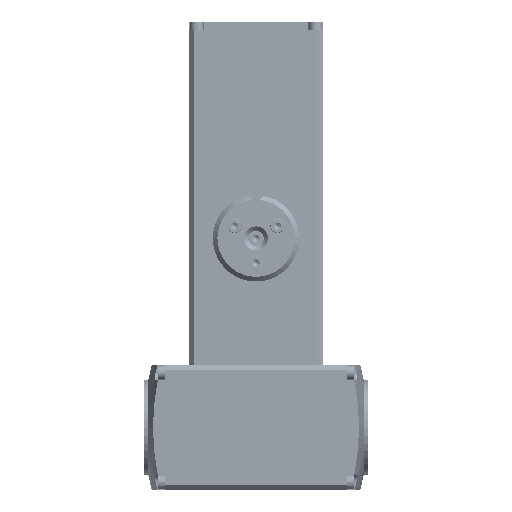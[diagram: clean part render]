
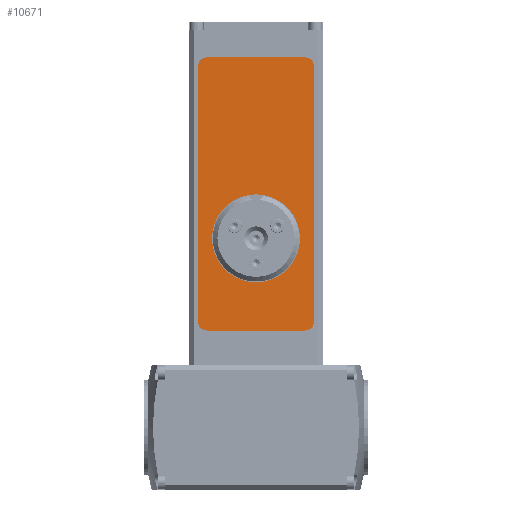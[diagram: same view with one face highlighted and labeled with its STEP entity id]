
A CAD part, front view. The second image highlights one B-rep face of the part: STEP entity #10671.
In plain terms, the highlighted planar face has unit normal (0, -1, 0).
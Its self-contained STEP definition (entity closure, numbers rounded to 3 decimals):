
#4018=FACE_BOUND('',#35643,.F.);
#10671=ADVANCED_FACE('',(#4018,#22852),#110357,.T.);
#22852=FACE_OUTER_BOUND('',#35644,.F.);
#35643=EDGE_LOOP('',(#68714,#68715));
#35644=EDGE_LOOP('',(#68716,#68717,#68718,#68719,#68720,#68721,#68722,#68723));
#68714=ORIENTED_EDGE('',*,*,#181576,.T.);
#68715=ORIENTED_EDGE('',*,*,#181574,.T.);
#68716=ORIENTED_EDGE('',*,*,#181578,.F.);
#68717=ORIENTED_EDGE('',*,*,#181585,.T.);
#68718=ORIENTED_EDGE('',*,*,#181584,.F.);
#68719=ORIENTED_EDGE('',*,*,#181583,.T.);
#68720=ORIENTED_EDGE('',*,*,#181582,.F.);
#68721=ORIENTED_EDGE('',*,*,#181581,.T.);
#68722=ORIENTED_EDGE('',*,*,#181580,.F.);
#68723=ORIENTED_EDGE('',*,*,#181579,.T.);
#110357=PLANE('',#236156);
#125511=LINE('',#337910,#151169);
#125512=LINE('',#337912,#151170);
#125513=LINE('',#337914,#151171);
#125514=LINE('',#337916,#151172);
#151169=VECTOR('',#271066,83.);
#151170=VECTOR('',#271069,32.);
#151171=VECTOR('',#271072,83.);
#151172=VECTOR('',#271075,32.);
#181574=EDGE_CURVE('',#214617,#214616,#204846,.T.);
#181576=EDGE_CURVE('',#214616,#214617,#204848,.T.);
#181578=EDGE_CURVE('',#214613,#214612,#204850,.T.);
#181579=EDGE_CURVE('',#214611,#214612,#125511,.T.);
#181580=EDGE_CURVE('',#214611,#214610,#204851,.T.);
#181581=EDGE_CURVE('',#214609,#214610,#125512,.T.);
#181582=EDGE_CURVE('',#214609,#214608,#204852,.T.);
#181583=EDGE_CURVE('',#214607,#214608,#125513,.T.);
#181584=EDGE_CURVE('',#214607,#214606,#204853,.T.);
#181585=EDGE_CURVE('',#214613,#214606,#125514,.T.);
#204846=CIRCLE('',#236144,14.25);
#204848=CIRCLE('',#236146,14.25);
#204850=CIRCLE('',#236148,2.75);
#204851=CIRCLE('',#236149,2.75);
#204852=CIRCLE('',#236150,2.75);
#204853=CIRCLE('',#236151,2.75);
#214606=VERTEX_POINT('',#337893);
#214607=VERTEX_POINT('',#337894);
#214608=VERTEX_POINT('',#337895);
#214609=VERTEX_POINT('',#337896);
#214610=VERTEX_POINT('',#337897);
#214611=VERTEX_POINT('',#337898);
#214612=VERTEX_POINT('',#337899);
#214613=VERTEX_POINT('',#337900);
#214616=VERTEX_POINT('',#337903);
#214617=VERTEX_POINT('',#337904);
#236144=AXIS2_PLACEMENT_3D('',#337905,#271056,#271057);
#236146=AXIS2_PLACEMENT_3D('',#337907,#271060,#271061);
#236148=AXIS2_PLACEMENT_3D('',#337909,#271064,#271065);
#236149=AXIS2_PLACEMENT_3D('',#337911,#271067,#271068);
#236150=AXIS2_PLACEMENT_3D('',#337913,#271070,#271071);
#236151=AXIS2_PLACEMENT_3D('',#337915,#271073,#271074);
#236156=AXIS2_PLACEMENT_3D('',#337935,#271098,#271099);
#271056=DIRECTION('',(0.,-1.,0.));
#271057=DIRECTION('',(-1.,0.,0.));
#271060=DIRECTION('',(0.,-1.,0.));
#271061=DIRECTION('',(1.,0.,0.));
#271064=DIRECTION('',(0.,-1.,0.));
#271065=DIRECTION('',(0.,0.,-1.));
#271066=DIRECTION('',(0.,0.,-1.));
#271067=DIRECTION('',(0.,-1.,0.));
#271068=DIRECTION('',(1.,0.,0.));
#271069=DIRECTION('',(1.,0.,0.));
#271070=DIRECTION('',(0.,-1.,0.));
#271071=DIRECTION('',(0.,0.,1.));
#271072=DIRECTION('',(0.,0.,1.));
#271073=DIRECTION('',(0.,-1.,0.));
#271074=DIRECTION('',(-1.,0.,0.));
#271075=DIRECTION('',(-1.,0.,0.));
#271098=DIRECTION('',(0.,-1.,0.));
#271099=DIRECTION('',(-1.,0.,0.));
#337893=CARTESIAN_POINT('',(142.249,-17.,-7.729));
#337894=CARTESIAN_POINT('',(139.499,-17.,-4.979));
#337895=CARTESIAN_POINT('',(139.499,-17.,78.021));
#337896=CARTESIAN_POINT('',(142.249,-17.,80.771));
#337897=CARTESIAN_POINT('',(174.249,-17.,80.771));
#337898=CARTESIAN_POINT('',(176.999,-17.,78.021));
#337899=CARTESIAN_POINT('',(176.999,-17.,-4.979));
#337900=CARTESIAN_POINT('',(174.249,-17.,-7.729));
#337903=CARTESIAN_POINT('',(172.499,-17.,22.15));
#337904=CARTESIAN_POINT('',(143.999,-17.,22.15));
#337905=CARTESIAN_POINT('',(158.249,-17.,22.15));
#337907=CARTESIAN_POINT('',(158.249,-17.,22.15));
#337909=CARTESIAN_POINT('',(174.249,-17.,-4.979));
#337910=CARTESIAN_POINT('',(176.999,-17.,78.021));
#337911=CARTESIAN_POINT('',(174.249,-17.,78.021));
#337912=CARTESIAN_POINT('',(142.249,-17.,80.771));
#337913=CARTESIAN_POINT('',(142.249,-17.,78.021));
#337914=CARTESIAN_POINT('',(139.499,-17.,-4.979));
#337915=CARTESIAN_POINT('',(142.249,-17.,-4.979));
#337916=CARTESIAN_POINT('',(174.249,-17.,-7.729));
#337935=CARTESIAN_POINT('',(177.888,-17.,81.659));
